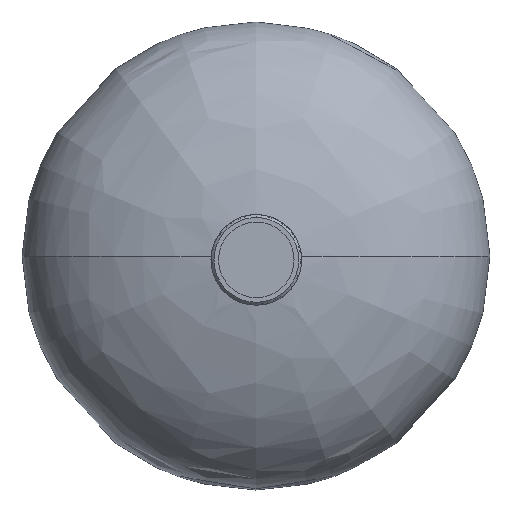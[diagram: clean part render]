
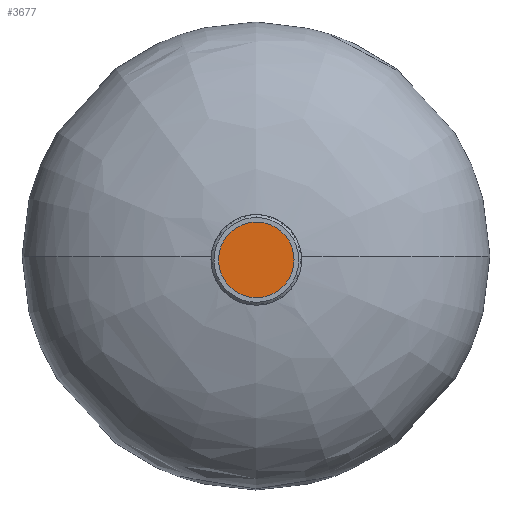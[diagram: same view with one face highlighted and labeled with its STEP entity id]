
A CAD part, left-side view. The second image highlights one B-rep face of the part: STEP entity #3677.
In plain terms, the highlighted planar face has unit normal (-1, 0, 0).
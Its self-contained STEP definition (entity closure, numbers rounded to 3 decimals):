
#15 = EDGE_CURVE ( 'NONE', #1866, #3689, #2785, .T. ) ;
#699 = CARTESIAN_POINT ( 'NONE',  ( -108.46, -3.237, -2.651 ) ) ;
#700 = AXIS2_PLACEMENT_3D ( 'NONE', #699, #760, #1903 ) ;
#738 = CARTESIAN_POINT ( 'NONE',  ( -108.46, -3.237, -2.651 ) ) ;
#760 = DIRECTION ( 'NONE',  ( -1., 0., 0. ) ) ;
#806 = ORIENTED_EDGE ( 'NONE', *, *, #945, .T. ) ;
#860 = CARTESIAN_POINT ( 'NONE',  ( -108.46, -3.237, 23.174 ) ) ;
#925 = AXIS2_PLACEMENT_3D ( 'NONE', #2557, #1711, #3477 ) ;
#945 = EDGE_CURVE ( 'NONE', #3689, #1866, #3261, .T. ) ;
#1466 = CARTESIAN_POINT ( 'NONE',  ( -108.46, -3.237, -28.475 ) ) ;
#1596 = AXIS2_PLACEMENT_3D ( 'NONE', #738, #3340, #3665 ) ;
#1711 = DIRECTION ( 'NONE',  ( -1., 0., 0. ) ) ;
#1866 = VERTEX_POINT ( 'NONE', #860 ) ;
#1903 = DIRECTION ( 'NONE',  ( 0., 0., 1. ) ) ;
#2000 = FACE_OUTER_BOUND ( 'NONE', #3742, .T. ) ;
#2333 = PLANE ( 'NONE',  #925 ) ;
#2557 = CARTESIAN_POINT ( 'NONE',  ( -108.46, -3.237, -2.651 ) ) ;
#2785 = CIRCLE ( 'NONE', #700, 25.825 ) ;
#3087 = ORIENTED_EDGE ( 'NONE', *, *, #15, .T. ) ;
#3261 = CIRCLE ( 'NONE', #1596, 25.825 ) ;
#3340 = DIRECTION ( 'NONE',  ( -1., 0., 0. ) ) ;
#3477 = DIRECTION ( 'NONE',  ( 0., 0., 1. ) ) ;
#3665 = DIRECTION ( 'NONE',  ( 0., 0., 1. ) ) ;
#3677 = ADVANCED_FACE ( 'NONE', ( #2000 ), #2333, .T. ) ;
#3689 = VERTEX_POINT ( 'NONE', #1466 ) ;
#3742 = EDGE_LOOP ( 'NONE', ( #806, #3087 ) ) ;
